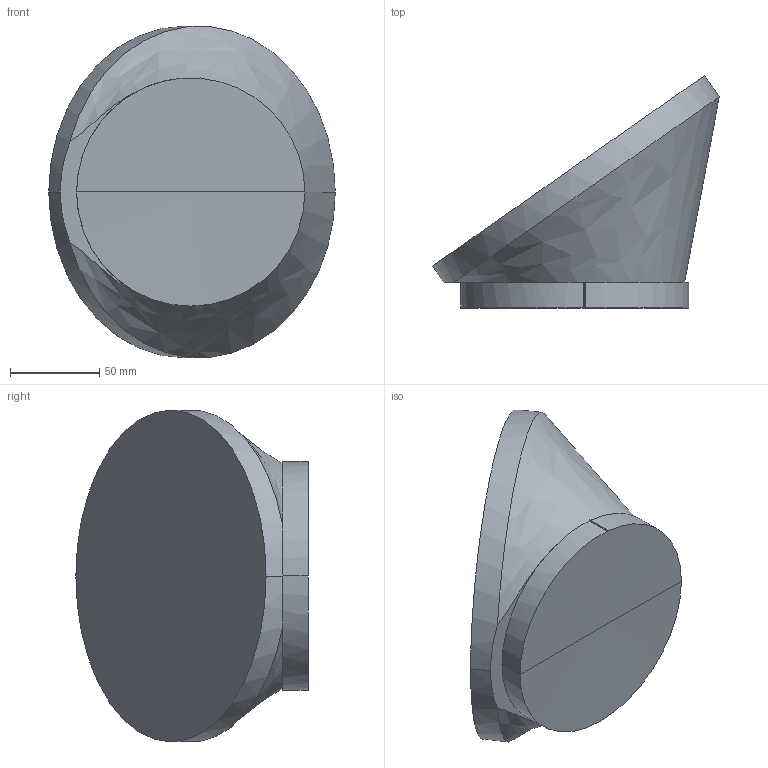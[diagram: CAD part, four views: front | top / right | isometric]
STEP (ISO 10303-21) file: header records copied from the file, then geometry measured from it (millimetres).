
FILE_DESCRIPTION (( 'STEP AP214' ), '1' );
FILE_NAME ('IRB5500-22_LINK5B_CAD.STEP', '2018-07-03T06:15:51', ( 'ABB' ), ( 'ABB' ), 'SwSTEP 2.0', 'SolidWorks 2016', '' );
FILE_SCHEMA (( 'AUTOMOTIVE_DESIGN' ));
Length unit declared in the file: millimetre
Products named in the file (2): IRB5500-22_LINK5B_CAD
Bounding box: 160.68 x 130.26 x 186 mm (x, y, z)
Volume: 1404774.1 mm3; surface area: 81123.6 mm2
Topology: 1 solids, 1 shells, 14 faces, 34 edges, 20 vertices
Faces by surface type: cylinder 5, plane 5, cone 2, bspline 2
Entity records: 741 total; most frequent: CARTESIAN_POINT 232, DIRECTION 66, ORIENTED_EDGE 64, EDGE_CURVE 32, AXIS2_PLACEMENT_3D 26, VERTEX_POINT 20, UNCERTAINTY_MEASURE_WITH_UNIT 17, STYLED_ITEM 16
